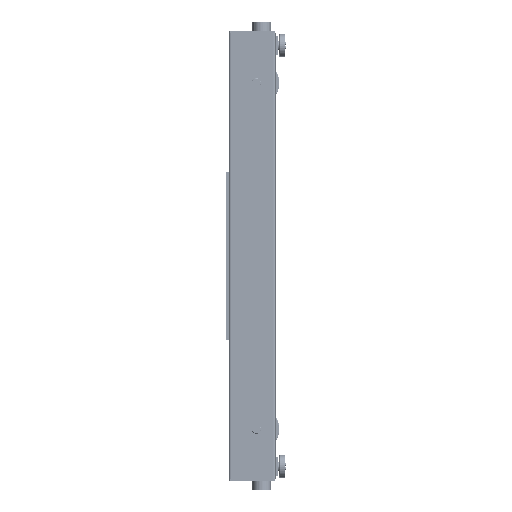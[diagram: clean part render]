
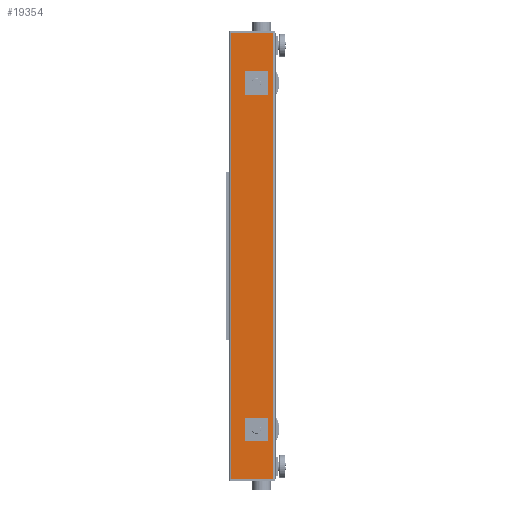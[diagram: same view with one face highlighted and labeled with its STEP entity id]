
A CAD part, left-side view. The second image highlights one B-rep face of the part: STEP entity #19354.
In plain terms, the highlighted planar face has unit normal (-1, 0, 0).
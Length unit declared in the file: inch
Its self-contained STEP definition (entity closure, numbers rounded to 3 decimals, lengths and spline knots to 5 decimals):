
#2461 = LINE ( 'NONE', #150335, #58178 ) ;
#2905 = VERTEX_POINT ( 'NONE', #39983 ) ;
#5143 = DIRECTION ( 'NONE',  ( 0., 0., -1. ) ) ;
#6265 = DIRECTION ( 'NONE',  ( 0., 0., -1. ) ) ;
#7219 = PLANE ( 'NONE',  #33457 ) ;
#7357 = CIRCLE ( 'NONE', #93827, 0.984 ) ;
#11139 = VERTEX_POINT ( 'NONE', #41814 ) ;
#13853 = EDGE_CURVE ( 'NONE', #30884, #114900, #88651, .T. ) ;
#15688 = AXIS2_PLACEMENT_3D ( 'NONE', #119577, #132718, #157271 ) ;
#19354 = ADVANCED_FACE ( 'NONE', ( #85904, #87629, #139372 ), #7219, .F. ) ;
#19486 = DIRECTION ( 'NONE',  ( 1., 0., 0. ) ) ;
#21935 = CARTESIAN_POINT ( 'NONE',  ( 0., 4.109, -36.01575 ) ) ;
#26236 = CARTESIAN_POINT ( 'NONE',  ( 0., 0.5, -47.71875 ) ) ;
#26281 = VERTEX_POINT ( 'NONE', #49420 ) ;
#27329 = DIRECTION ( 'NONE',  ( 0., -1., 0. ) ) ;
#28211 = CARTESIAN_POINT ( 'NONE',  ( 0., 4.109, 37.98425 ) ) ;
#30884 = VERTEX_POINT ( 'NONE', #102030 ) ;
#33457 = AXIS2_PLACEMENT_3D ( 'NONE', #141089, #19486, #61413 ) ;
#34525 = ORIENTED_EDGE ( 'NONE', *, *, #13853, .T. ) ;
#38133 = VECTOR ( 'NONE', #73507, 39.37008 ) ;
#39983 = CARTESIAN_POINT ( 'NONE',  ( 0., 9.5, -47.71875 ) ) ;
#41814 = CARTESIAN_POINT ( 'NONE',  ( 0., 4.109, -37.98375 ) ) ;
#41899 = DIRECTION ( 'NONE',  ( 1., 0., 0. ) ) ;
#43200 = CARTESIAN_POINT ( 'NONE',  ( 0., 0.5, 47.71875 ) ) ;
#44065 = LINE ( 'NONE', #43200, #38133 ) ;
#46155 = AXIS2_PLACEMENT_3D ( 'NONE', #50551, #89903, #116230 ) ;
#49420 = CARTESIAN_POINT ( 'NONE',  ( 0., 9.5, 47.71875 ) ) ;
#50551 = CARTESIAN_POINT ( 'NONE',  ( 0., 4.109, 37.00025 ) ) ;
#51994 = EDGE_CURVE ( 'NONE', #52783, #11139, #7357, .T. ) ;
#52205 = EDGE_CURVE ( 'NONE', #11139, #52783, #163737, .T. ) ;
#52713 = EDGE_CURVE ( 'NONE', #97182, #67010, #44065, .T. ) ;
#52783 = VERTEX_POINT ( 'NONE', #21935 ) ;
#54807 = ORIENTED_EDGE ( 'NONE', *, *, #133569, .T. ) ;
#58178 = VECTOR ( 'NONE', #94294, 39.37008 ) ;
#61332 = ORIENTED_EDGE ( 'NONE', *, *, #167918, .F. ) ;
#61413 = DIRECTION ( 'NONE',  ( 0., 0., -1. ) ) ;
#67010 = VERTEX_POINT ( 'NONE', #26236 ) ;
#71823 = LINE ( 'NONE', #125276, #119620 ) ;
#72078 = DIRECTION ( 'NONE',  ( 1., 0., 0. ) ) ;
#73507 = DIRECTION ( 'NONE',  ( 0., 0., -1. ) ) ;
#83442 = CARTESIAN_POINT ( 'NONE',  ( 0., 4.109, 37.00025 ) ) ;
#85251 = CARTESIAN_POINT ( 'NONE',  ( 0., 0.5, 47.71875 ) ) ;
#85904 = FACE_BOUND ( 'NONE', #118042, .T. ) ;
#86992 = ORIENTED_EDGE ( 'NONE', *, *, #94934, .T. ) ;
#87629 = FACE_BOUND ( 'NONE', #149928, .T. ) ;
#88651 = CIRCLE ( 'NONE', #161415, 0.984 ) ;
#89903 = DIRECTION ( 'NONE',  ( 1., 0., 0. ) ) ;
#93827 = AXIS2_PLACEMENT_3D ( 'NONE', #123255, #41899, #5143 ) ;
#94294 = DIRECTION ( 'NONE',  ( 0., -1., 0. ) ) ;
#94677 = CARTESIAN_POINT ( 'NONE',  ( 0., 0.5, -47.71875 ) ) ;
#94934 = EDGE_CURVE ( 'NONE', #114900, #30884, #144061, .T. ) ;
#97182 = VERTEX_POINT ( 'NONE', #85251 ) ;
#100914 = ORIENTED_EDGE ( 'NONE', *, *, #149568, .T. ) ;
#102030 = CARTESIAN_POINT ( 'NONE',  ( 0., 4.109, 36.01625 ) ) ;
#111722 = ORIENTED_EDGE ( 'NONE', *, *, #52713, .F. ) ;
#114900 = VERTEX_POINT ( 'NONE', #28211 ) ;
#116230 = DIRECTION ( 'NONE',  ( 0., 0., -1. ) ) ;
#117519 = ORIENTED_EDGE ( 'NONE', *, *, #52205, .T. ) ;
#118042 = EDGE_LOOP ( 'NONE', ( #34525, #86992 ) ) ;
#119442 = VECTOR ( 'NONE', #27329, 39.37008 ) ;
#119577 = CARTESIAN_POINT ( 'NONE',  ( 0., 4.109, -36.99975 ) ) ;
#119620 = VECTOR ( 'NONE', #6265, 39.37008 ) ;
#123255 = CARTESIAN_POINT ( 'NONE',  ( 0., 4.109, -36.99975 ) ) ;
#125276 = CARTESIAN_POINT ( 'NONE',  ( 0., 9.5, 47.71875 ) ) ;
#132718 = DIRECTION ( 'NONE',  ( 1., 0., 0. ) ) ;
#132888 = ORIENTED_EDGE ( 'NONE', *, *, #51994, .T. ) ;
#133569 = EDGE_CURVE ( 'NONE', #26281, #2905, #71823, .T. ) ;
#136015 = DIRECTION ( 'NONE',  ( 0., 0., -1. ) ) ;
#139372 = FACE_OUTER_BOUND ( 'NONE', #152097, .T. ) ;
#141089 = CARTESIAN_POINT ( 'NONE',  ( 0., 0.5, 47.71875 ) ) ;
#144061 = CIRCLE ( 'NONE', #46155, 0.984 ) ;
#149568 = EDGE_CURVE ( 'NONE', #2905, #67010, #171745, .T. ) ;
#149928 = EDGE_LOOP ( 'NONE', ( #117519, #132888 ) ) ;
#150335 = CARTESIAN_POINT ( 'NONE',  ( 0., 0.5, 47.71875 ) ) ;
#152097 = EDGE_LOOP ( 'NONE', ( #100914, #111722, #61332, #54807 ) ) ;
#157271 = DIRECTION ( 'NONE',  ( 0., 0., -1. ) ) ;
#161415 = AXIS2_PLACEMENT_3D ( 'NONE', #83442, #72078, #136015 ) ;
#163737 = CIRCLE ( 'NONE', #15688, 0.984 ) ;
#167918 = EDGE_CURVE ( 'NONE', #26281, #97182, #2461, .T. ) ;
#171745 = LINE ( 'NONE', #94677, #119442 ) ;
